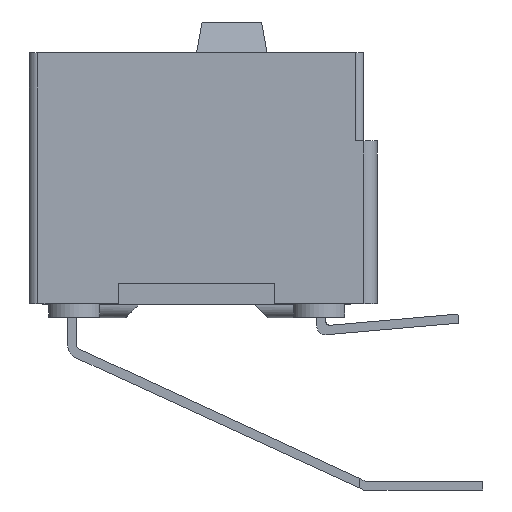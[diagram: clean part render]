
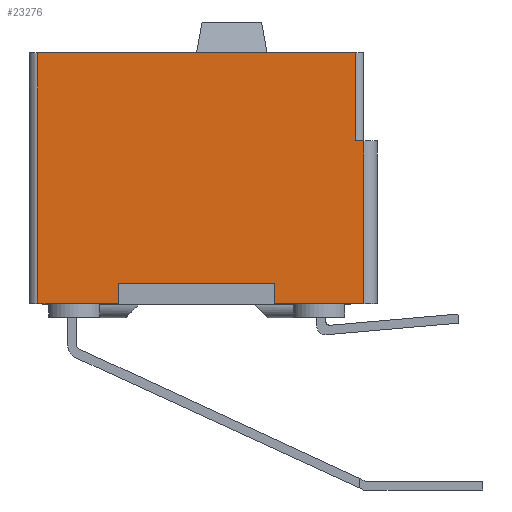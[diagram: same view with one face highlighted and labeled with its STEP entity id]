
A CAD part, left-side view. The second image highlights one B-rep face of the part: STEP entity #23276.
In plain terms, the highlighted planar face has unit normal (-1, 0, 0).
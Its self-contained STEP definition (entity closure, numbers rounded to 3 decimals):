
#5 = VERTEX_POINT ( 'NONE', #23837 ) ;
#208 = CARTESIAN_POINT ( 'NONE',  ( 0., -9.652, -2.54 ) ) ;
#211 = LINE ( 'NONE', #23577, #16507 ) ;
#576 = CARTESIAN_POINT ( 'NONE',  ( 0., -0.25, -7.239 ) ) ;
#735 = LINE ( 'NONE', #23616, #15309 ) ;
#1040 = LINE ( 'NONE', #16552, #24415 ) ;
#1070 = LINE ( 'NONE', #14942, #16590 ) ;
#1526 = EDGE_CURVE ( 'NONE', #20311, #9784, #1040, .T. ) ;
#1542 = CARTESIAN_POINT ( 'NONE',  ( 0., -9.652, -2.54 ) ) ;
#2611 = PLANE ( 'NONE',  #22457 ) ;
#2659 = CARTESIAN_POINT ( 'NONE',  ( 0., -8.357, -7.239 ) ) ;
#2875 = CARTESIAN_POINT ( 'NONE',  ( 0., -2.576, -7.239 ) ) ;
#2928 = ORIENTED_EDGE ( 'NONE', *, *, #12422, .T. ) ;
#3452 = ORIENTED_EDGE ( 'NONE', *, *, #10679, .F. ) ;
#3463 = LINE ( 'NONE', #1542, #24639 ) ;
#3573 = EDGE_CURVE ( 'NONE', #11541, #23050, #13883, .T. ) ;
#3911 = DIRECTION ( 'NONE',  ( 0., 1., 0. ) ) ;
#4220 = CARTESIAN_POINT ( 'NONE',  ( 0., -0.25, -7.239 ) ) ;
#4738 = LINE ( 'NONE', #21671, #6449 ) ;
#5048 = CARTESIAN_POINT ( 'NONE',  ( 0., -0.25, 0. ) ) ;
#5451 = VERTEX_POINT ( 'NONE', #7398 ) ;
#5571 = DIRECTION ( 'NONE',  ( 0., 0., 1. ) ) ;
#5629 = ORIENTED_EDGE ( 'NONE', *, *, #7934, .T. ) ;
#5925 = LINE ( 'NONE', #9497, #21603 ) ;
#5949 = VERTEX_POINT ( 'NONE', #18399 ) ;
#6277 = DIRECTION ( 'NONE',  ( 0., -1., 0. ) ) ;
#6449 = VECTOR ( 'NONE', #6277, 1000. ) ;
#6629 = VECTOR ( 'NONE', #15400, 1000. ) ;
#7141 = DIRECTION ( 'NONE',  ( 0., 0., -1. ) ) ;
#7398 = CARTESIAN_POINT ( 'NONE',  ( 0., -7.076, -7.239 ) ) ;
#7706 = DIRECTION ( 'NONE',  ( 0., 1., 0. ) ) ;
#7934 = EDGE_CURVE ( 'NONE', #5451, #18109, #1070, .T. ) ;
#8241 = DIRECTION ( 'NONE',  ( 0., -1., 0. ) ) ;
#8587 = CARTESIAN_POINT ( 'NONE',  ( 0., -0.25, -7.239 ) ) ;
#9178 = CARTESIAN_POINT ( 'NONE',  ( 0., -0.25, -7.239 ) ) ;
#9497 = CARTESIAN_POINT ( 'NONE',  ( 0., -9.402, -2.54 ) ) ;
#9583 = CARTESIAN_POINT ( 'NONE',  ( 0., -2.576, -6.639 ) ) ;
#9613 = EDGE_CURVE ( 'NONE', #5949, #13778, #24237, .T. ) ;
#9784 = VERTEX_POINT ( 'NONE', #2875 ) ;
#10089 = VERTEX_POINT ( 'NONE', #208 ) ;
#10577 = VECTOR ( 'NONE', #5571, 1000. ) ;
#10679 = EDGE_CURVE ( 'NONE', #10089, #5, #3463, .T. ) ;
#11541 = VERTEX_POINT ( 'NONE', #9178 ) ;
#11777 = ORIENTED_EDGE ( 'NONE', *, *, #1526, .F. ) ;
#11805 = EDGE_CURVE ( 'NONE', #18351, #9784, #735, .T. ) ;
#12017 = LINE ( 'NONE', #576, #20183 ) ;
#12117 = EDGE_CURVE ( 'NONE', #22245, #20311, #13328, .T. ) ;
#12189 = EDGE_CURVE ( 'NONE', #23050, #13778, #16361, .T. ) ;
#12418 = ORIENTED_EDGE ( 'NONE', *, *, #11805, .T. ) ;
#12422 = EDGE_CURVE ( 'NONE', #18109, #5, #12017, .T. ) ;
#12626 = DIRECTION ( 'NONE',  ( 0., 0., -1. ) ) ;
#13328 = LINE ( 'NONE', #19422, #21823 ) ;
#13337 = EDGE_CURVE ( 'NONE', #11541, #18351, #4738, .T. ) ;
#13778 = VERTEX_POINT ( 'NONE', #20860 ) ;
#13883 = LINE ( 'NONE', #4220, #6629 ) ;
#14192 = DIRECTION ( 'NONE',  ( -1., 0., 0. ) ) ;
#14614 = CARTESIAN_POINT ( 'NONE',  ( 0., -9.402, -7.239 ) ) ;
#14942 = CARTESIAN_POINT ( 'NONE',  ( 0., -0.25, -7.239 ) ) ;
#15309 = VECTOR ( 'NONE', #8241, 1000. ) ;
#15400 = DIRECTION ( 'NONE',  ( 0., 0., 1. ) ) ;
#15725 = VECTOR ( 'NONE', #24087, 1000. ) ;
#15727 = EDGE_CURVE ( 'NONE', #22245, #5451, #211, .T. ) ;
#16190 = ORIENTED_EDGE ( 'NONE', *, *, #12117, .F. ) ;
#16361 = LINE ( 'NONE', #5048, #15725 ) ;
#16507 = VECTOR ( 'NONE', #18103, 1000. ) ;
#16552 = CARTESIAN_POINT ( 'NONE',  ( 0., -2.576, -6.639 ) ) ;
#16590 = VECTOR ( 'NONE', #24452, 1000. ) ;
#17696 = ORIENTED_EDGE ( 'NONE', *, *, #9613, .T. ) ;
#17985 = DIRECTION ( 'NONE',  ( 0., -1., 0. ) ) ;
#18103 = DIRECTION ( 'NONE',  ( 0., 0., -1. ) ) ;
#18109 = VERTEX_POINT ( 'NONE', #2659 ) ;
#18351 = VERTEX_POINT ( 'NONE', #21430 ) ;
#18399 = CARTESIAN_POINT ( 'NONE',  ( 0., -9.402, -2.54 ) ) ;
#18502 = DIRECTION ( 'NONE',  ( 0., -1., 0. ) ) ;
#19301 = EDGE_CURVE ( 'NONE', #10089, #5949, #5925, .T. ) ;
#19422 = CARTESIAN_POINT ( 'NONE',  ( 0., -2.576, -6.639 ) ) ;
#19532 = CARTESIAN_POINT ( 'NONE',  ( 0., -7.076, -6.639 ) ) ;
#19692 = EDGE_LOOP ( 'NONE', ( #11777, #16190, #21189, #5629, #2928, #3452, #19740, #17696, #24162, #22593, #23631, #12418 ) ) ;
#19740 = ORIENTED_EDGE ( 'NONE', *, *, #19301, .T. ) ;
#20183 = VECTOR ( 'NONE', #17985, 1000. ) ;
#20311 = VERTEX_POINT ( 'NONE', #9583 ) ;
#20823 = CARTESIAN_POINT ( 'NONE',  ( 0., -0.25, 0. ) ) ;
#20860 = CARTESIAN_POINT ( 'NONE',  ( 0., -9.402, 0. ) ) ;
#21189 = ORIENTED_EDGE ( 'NONE', *, *, #15727, .T. ) ;
#21430 = CARTESIAN_POINT ( 'NONE',  ( 0., -1.295, -7.239 ) ) ;
#21603 = VECTOR ( 'NONE', #7706, 1000. ) ;
#21671 = CARTESIAN_POINT ( 'NONE',  ( 0., -0.25, -7.239 ) ) ;
#21823 = VECTOR ( 'NONE', #3911, 1000. ) ;
#22245 = VERTEX_POINT ( 'NONE', #19532 ) ;
#22447 = FACE_OUTER_BOUND ( 'NONE', #19692, .T. ) ;
#22457 = AXIS2_PLACEMENT_3D ( 'NONE', #8587, #14192, #18502 ) ;
#22593 = ORIENTED_EDGE ( 'NONE', *, *, #3573, .F. ) ;
#23050 = VERTEX_POINT ( 'NONE', #20823 ) ;
#23276 = ADVANCED_FACE ( 'NONE', ( #22447 ), #2611, .T. ) ;
#23577 = CARTESIAN_POINT ( 'NONE',  ( 0., -7.076, -6.639 ) ) ;
#23616 = CARTESIAN_POINT ( 'NONE',  ( 0., -0.25, -7.239 ) ) ;
#23631 = ORIENTED_EDGE ( 'NONE', *, *, #13337, .T. ) ;
#23837 = CARTESIAN_POINT ( 'NONE',  ( 0., -9.652, -7.239 ) ) ;
#24087 = DIRECTION ( 'NONE',  ( 0., -1., 0. ) ) ;
#24162 = ORIENTED_EDGE ( 'NONE', *, *, #12189, .F. ) ;
#24237 = LINE ( 'NONE', #14614, #10577 ) ;
#24415 = VECTOR ( 'NONE', #12626, 1000. ) ;
#24452 = DIRECTION ( 'NONE',  ( 0., -1., 0. ) ) ;
#24639 = VECTOR ( 'NONE', #7141, 1000. ) ;
